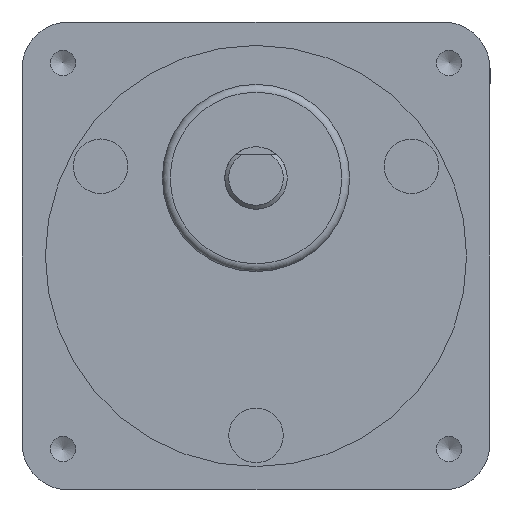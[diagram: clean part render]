
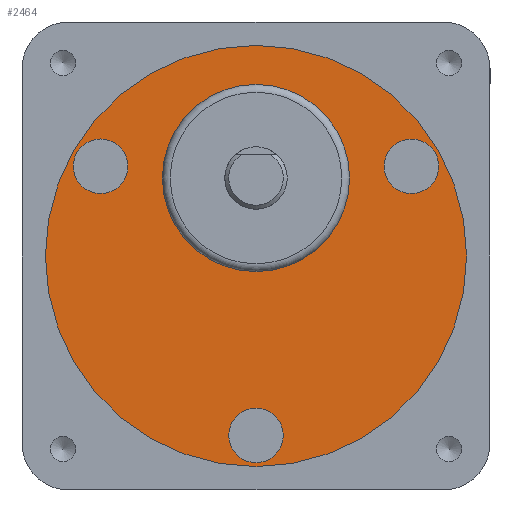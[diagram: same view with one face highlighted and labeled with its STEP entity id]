
A CAD part, front view. The second image highlights one B-rep face of the part: STEP entity #2464.
In plain terms, the highlighted planar face has unit normal (0, -1, 0).
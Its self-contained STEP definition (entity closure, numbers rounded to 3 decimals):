
#103=FACE_BOUND('',#437,.T.);
#104=FACE_BOUND('',#438,.T.);
#105=FACE_BOUND('',#439,.T.);
#106=FACE_BOUND('',#440,.T.);
#164=PLANE('',#2765);
#268=FACE_OUTER_BOUND('',#436,.T.);
#436=EDGE_LOOP('',(#1861));
#437=EDGE_LOOP('',(#1862));
#438=EDGE_LOOP('',(#1863));
#439=EDGE_LOOP('',(#1864));
#440=EDGE_LOOP('',(#1865));
#942=CIRCLE('',#2669,3.5);
#944=CIRCLE('',#2673,3.5);
#946=CIRCLE('',#2677,3.5);
#995=CIRCLE('',#2764,27.);
#996=CIRCLE('',#2766,12.);
#1103=VERTEX_POINT('',#3809);
#1105=VERTEX_POINT('',#3816);
#1107=VERTEX_POINT('',#3823);
#1168=VERTEX_POINT('',#4121);
#1169=VERTEX_POINT('',#4125);
#1333=EDGE_CURVE('',#1103,#1103,#942,.T.);
#1336=EDGE_CURVE('',#1105,#1105,#944,.T.);
#1339=EDGE_CURVE('',#1107,#1107,#946,.T.);
#1431=EDGE_CURVE('',#1168,#1168,#995,.T.);
#1432=EDGE_CURVE('',#1169,#1169,#996,.T.);
#1861=ORIENTED_EDGE('',*,*,#1431,.T.);
#1862=ORIENTED_EDGE('',*,*,#1333,.T.);
#1863=ORIENTED_EDGE('',*,*,#1336,.T.);
#1864=ORIENTED_EDGE('',*,*,#1339,.T.);
#1865=ORIENTED_EDGE('',*,*,#1432,.F.);
#2464=ADVANCED_FACE('',(#268,#103,#104,#105,#106),#164,.F.);
#2669=AXIS2_PLACEMENT_3D('',#3810,#2992,#2993);
#2673=AXIS2_PLACEMENT_3D('',#3817,#3001,#3002);
#2677=AXIS2_PLACEMENT_3D('',#3824,#3010,#3011);
#2764=AXIS2_PLACEMENT_3D('',#4123,#3227,#3228);
#2765=AXIS2_PLACEMENT_3D('',#4124,#3229,#3230);
#2766=AXIS2_PLACEMENT_3D('',#4126,#3231,#3232);
#2992=DIRECTION('center_axis',(0.,1.,0.));
#2993=DIRECTION('ref_axis',(0.5,0.,-0.866));
#3001=DIRECTION('center_axis',(0.,1.,0.));
#3002=DIRECTION('ref_axis',(0.5,0.,0.866));
#3010=DIRECTION('center_axis',(0.,1.,0.));
#3011=DIRECTION('ref_axis',(-1.,0.,0.));
#3227=DIRECTION('center_axis',(0.,-1.,0.));
#3228=DIRECTION('ref_axis',(-1.,0.,0.));
#3229=DIRECTION('center_axis',(0.,1.,0.));
#3230=DIRECTION('ref_axis',(0.,0.,1.));
#3231=DIRECTION('center_axis',(0.,-1.,0.));
#3232=DIRECTION('ref_axis',(-1.,0.,0.));
#3809=CARTESIAN_POINT('',(18.169,0.5,14.531));
#3810=CARTESIAN_POINT('Origin',(19.919,0.5,11.5));
#3816=CARTESIAN_POINT('',(-21.669,0.5,8.469));
#3817=CARTESIAN_POINT('Origin',(-19.919,0.5,11.5));
#3823=CARTESIAN_POINT('',(3.5,0.5,-23.));
#3824=CARTESIAN_POINT('Origin',(0.,0.5,-23.));
#4121=CARTESIAN_POINT('',(27.,0.5,0.));
#4123=CARTESIAN_POINT('Origin',(0.,0.5,0.));
#4124=CARTESIAN_POINT('Origin',(0.,0.5,0.));
#4125=CARTESIAN_POINT('',(12.,0.5,10.));
#4126=CARTESIAN_POINT('Origin',(0.,0.5,10.));
